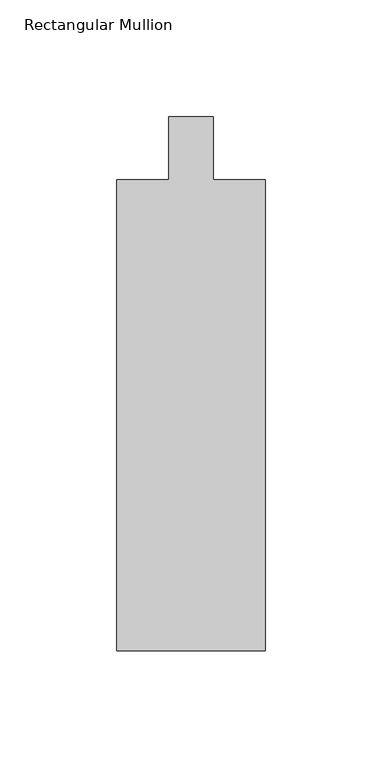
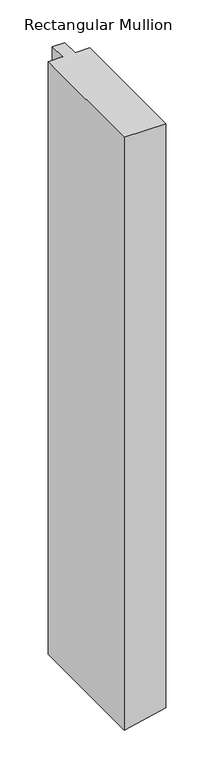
"""IFC4 building model written with IfcOpenShell, lengths in millimetres: member geometry."""

from ifc_helpers import new_model, si_unit, origin, place, context, project, spatial, faceted_brep, source, transform, mapped, element, save


def rectangular_mullion_9d721f76(model_context):
    return source(origin(), model_context, "Body", "Brep", [
        faceted_brep([(31.75, -228.6, 0.0), (31.75, -26.9875, 0.0), (9.525, -26.9875, 0.0), (9.525, 0.0, 0.0), (-9.525, 0.0, 0.0), (-9.525, -26.9875, 0.0), (-31.75, -26.9875, 0.0), (-31.75, -228.6, 0.0), (31.75, -228.6, -942.5983409), (31.75, -26.9875, -942.5983409), (9.525, -26.9875, -947.4849784), (9.525, 0.0, -947.4849784), (-9.525, 0.0, -951.6735249), (-9.525, -26.9875, -951.6735249), (-13.6361042, -26.9875, -952.5774383), (-31.75, -26.9875, -956.5601624), (-31.75, -228.6, -956.5601624), (-13.6361042, -228.6, -952.5774383)], [[[0, 1, 2, 3, 4, 5, 6, 7]], [[1, 0, 8, 9]], [[2, 1, 9, 10]], [[3, 2, 10, 11]], [[4, 3, 11, 12]], [[5, 4, 12, 13]], [[6, 5, 13, 14, 15]], [[7, 6, 15, 16]], [[0, 7, 16, 17, 8]], [[8, 17, 14, 13, 12, 11, 10, 9]], [[17, 16, 15, 14]]]),
    ])


if __name__ == "__main__":
    model = new_model("IFC4")
    model_context = context("Model", 3, world=origin())
    ifc_project = project(units=[si_unit("LENGTHUNIT", "METRE", prefix="MILLI")], contexts=[model_context])
    site = spatial("IfcSite", under=ifc_project)
    building = spatial("IfcBuilding", under=site)
    placement = place(None, origin())
    rectangular_mullion_shape = rectangular_mullion_9d721f76(model_context)
    element("IfcMember", 1, ObjectType="Rectangular Mullion : 2 1/2\" x 8\" - Capless", at=placement, inside=building, context=model_context, shape_type="MappedRepresentation", body=[
        mapped(rectangular_mullion_shape, transform((0.0, 0.0, 0.0), x_axis=(1.0, 0.0, 0.0), y_axis=(0.0, 1.0, 0.0), z_axis=(0.0, 0.0, 1.0))),
    ])
    save(model, "model.ifc")
